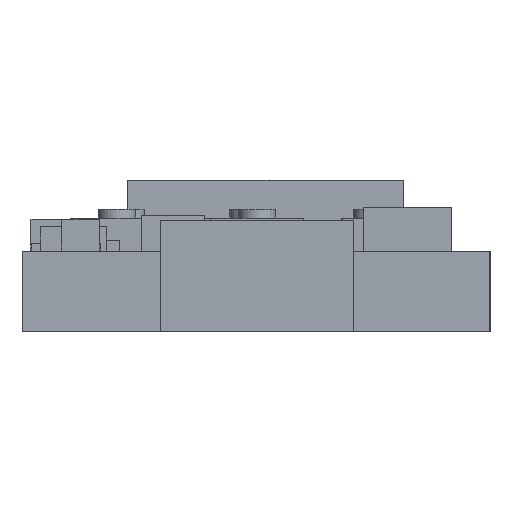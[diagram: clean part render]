
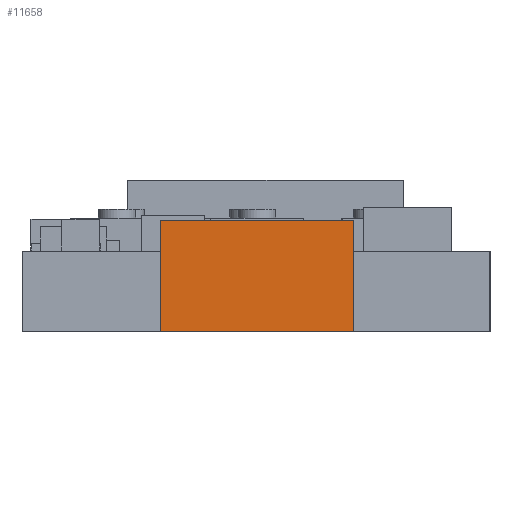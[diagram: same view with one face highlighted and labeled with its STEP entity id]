
A CAD part, left-side view. The second image highlights one B-rep face of the part: STEP entity #11658.
In plain terms, the highlighted planar face has unit normal (-1, 0, 0).
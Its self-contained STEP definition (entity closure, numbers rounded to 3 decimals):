
#100 = PLANE('',#101);
#101 = AXIS2_PLACEMENT_3D('',#102,#103,#104);
#102 = CARTESIAN_POINT('',(-0.114,-21.224,0.));
#103 = DIRECTION('',(0.,0.,1.));
#104 = DIRECTION('',(1.,0.,0.));
#125 = PLANE('',#126);
#126 = AXIS2_PLACEMENT_3D('',#127,#128,#129);
#127 = CARTESIAN_POINT('',(-11.509,-15.043,0.));
#128 = DIRECTION('',(0.,1.,0.));
#129 = DIRECTION('',(0.,0.,1.));
#368 = PLANE('',#369);
#369 = AXIS2_PLACEMENT_3D('',#370,#371,#372);
#370 = CARTESIAN_POINT('',(-11.509,-6.293,0.));
#371 = DIRECTION('',(0.,1.,0.));
#372 = DIRECTION('',(0.,0.,1.));
#4032 = VERTEX_POINT('',#4033);
#4033 = CARTESIAN_POINT('',(-11.509,-15.043,0.));
#4054 = EDGE_CURVE('',#4032,#4055,#4057,.T.);
#4055 = VERTEX_POINT('',#4056);
#4056 = CARTESIAN_POINT('',(-11.509,-15.043,
    5.051));
#4057 = SURFACE_CURVE('',#4058,(#4062,#4069),.PCURVE_S1.);
#4058 = LINE('',#4059,#4060);
#4059 = CARTESIAN_POINT('',(-11.509,-15.043,0.));
#4060 = VECTOR('',#4061,1.);
#4061 = DIRECTION('',(0.,0.,1.));
#4062 = PCURVE('',#125,#4063);
#4063 = DEFINITIONAL_REPRESENTATION('',(#4064),#4068);
#4064 = LINE('',#4065,#4066);
#4065 = CARTESIAN_POINT('',(0.,0.));
#4066 = VECTOR('',#4067,1.);
#4067 = DIRECTION('',(1.,0.));
#4068 = ( GEOMETRIC_REPRESENTATION_CONTEXT(2) 
PARAMETRIC_REPRESENTATION_CONTEXT() REPRESENTATION_CONTEXT('2D SPACE',''
  ) );
#4069 = PCURVE('',#4070,#4075);
#4070 = PLANE('',#4071);
#4071 = AXIS2_PLACEMENT_3D('',#4072,#4073,#4074);
#4072 = CARTESIAN_POINT('',(-11.509,-15.043,0.));
#4073 = DIRECTION('',(1.,0.,0.));
#4074 = DIRECTION('',(0.,0.,1.));
#4075 = DEFINITIONAL_REPRESENTATION('',(#4076),#4080);
#4076 = LINE('',#4077,#4078);
#4077 = CARTESIAN_POINT('',(0.,0.));
#4078 = VECTOR('',#4079,1.);
#4079 = DIRECTION('',(1.,0.));
#4080 = ( GEOMETRIC_REPRESENTATION_CONTEXT(2) 
PARAMETRIC_REPRESENTATION_CONTEXT() REPRESENTATION_CONTEXT('2D SPACE',''
  ) );
#4098 = PLANE('',#4099);
#4099 = AXIS2_PLACEMENT_3D('',#4100,#4101,#4102);
#4100 = CARTESIAN_POINT('',(-11.509,-15.043,
    5.051));
#4101 = DIRECTION('',(0.,0.,1.));
#4102 = DIRECTION('',(1.,0.,0.));
#4327 = VERTEX_POINT('',#4328);
#4328 = CARTESIAN_POINT('',(-11.509,-6.293,0.));
#4349 = EDGE_CURVE('',#4032,#4327,#4350,.T.);
#4350 = SURFACE_CURVE('',#4351,(#4355,#4362),.PCURVE_S1.);
#4351 = LINE('',#4352,#4353);
#4352 = CARTESIAN_POINT('',(-11.509,-15.043,0.));
#4353 = VECTOR('',#4354,1.);
#4354 = DIRECTION('',(0.,1.,0.));
#4355 = PCURVE('',#100,#4356);
#4356 = DEFINITIONAL_REPRESENTATION('',(#4357),#4361);
#4357 = LINE('',#4358,#4359);
#4358 = CARTESIAN_POINT('',(-11.394,6.181));
#4359 = VECTOR('',#4360,1.);
#4360 = DIRECTION('',(0.,1.));
#4361 = ( GEOMETRIC_REPRESENTATION_CONTEXT(2) 
PARAMETRIC_REPRESENTATION_CONTEXT() REPRESENTATION_CONTEXT('2D SPACE',''
  ) );
#4362 = PCURVE('',#4070,#4363);
#4363 = DEFINITIONAL_REPRESENTATION('',(#4364),#4368);
#4364 = LINE('',#4365,#4366);
#4365 = CARTESIAN_POINT('',(0.,0.));
#4366 = VECTOR('',#4367,1.);
#4367 = DIRECTION('',(0.,-1.));
#4368 = ( GEOMETRIC_REPRESENTATION_CONTEXT(2) 
PARAMETRIC_REPRESENTATION_CONTEXT() REPRESENTATION_CONTEXT('2D SPACE',''
  ) );
#4451 = EDGE_CURVE('',#4327,#4452,#4454,.T.);
#4452 = VERTEX_POINT('',#4453);
#4453 = CARTESIAN_POINT('',(-11.509,-6.293,
    5.051));
#4454 = SURFACE_CURVE('',#4455,(#4459,#4466),.PCURVE_S1.);
#4455 = LINE('',#4456,#4457);
#4456 = CARTESIAN_POINT('',(-11.509,-6.293,0.));
#4457 = VECTOR('',#4458,1.);
#4458 = DIRECTION('',(0.,0.,1.));
#4459 = PCURVE('',#368,#4460);
#4460 = DEFINITIONAL_REPRESENTATION('',(#4461),#4465);
#4461 = LINE('',#4462,#4463);
#4462 = CARTESIAN_POINT('',(0.,0.));
#4463 = VECTOR('',#4464,1.);
#4464 = DIRECTION('',(1.,0.));
#4465 = ( GEOMETRIC_REPRESENTATION_CONTEXT(2) 
PARAMETRIC_REPRESENTATION_CONTEXT() REPRESENTATION_CONTEXT('2D SPACE',''
  ) );
#4466 = PCURVE('',#4070,#4467);
#4467 = DEFINITIONAL_REPRESENTATION('',(#4468),#4472);
#4468 = LINE('',#4469,#4470);
#4469 = CARTESIAN_POINT('',(0.,-8.75));
#4470 = VECTOR('',#4471,1.);
#4471 = DIRECTION('',(1.,0.));
#4472 = ( GEOMETRIC_REPRESENTATION_CONTEXT(2) 
PARAMETRIC_REPRESENTATION_CONTEXT() REPRESENTATION_CONTEXT('2D SPACE',''
  ) );
#11635 = EDGE_CURVE('',#4055,#4452,#11636,.T.);
#11636 = SURFACE_CURVE('',#11637,(#11641,#11648),.PCURVE_S1.);
#11637 = LINE('',#11638,#11639);
#11638 = CARTESIAN_POINT('',(-11.509,-15.043,
    5.051));
#11639 = VECTOR('',#11640,1.);
#11640 = DIRECTION('',(0.,1.,0.));
#11641 = PCURVE('',#4098,#11642);
#11642 = DEFINITIONAL_REPRESENTATION('',(#11643),#11647);
#11643 = LINE('',#11644,#11645);
#11644 = CARTESIAN_POINT('',(0.,0.));
#11645 = VECTOR('',#11646,1.);
#11646 = DIRECTION('',(0.,1.));
#11647 = ( GEOMETRIC_REPRESENTATION_CONTEXT(2) 
PARAMETRIC_REPRESENTATION_CONTEXT() REPRESENTATION_CONTEXT('2D SPACE',''
  ) );
#11648 = PCURVE('',#4070,#11649);
#11649 = DEFINITIONAL_REPRESENTATION('',(#11650),#11654);
#11650 = LINE('',#11651,#11652);
#11651 = CARTESIAN_POINT('',(5.051,0.));
#11652 = VECTOR('',#11653,1.);
#11653 = DIRECTION('',(0.,-1.));
#11654 = ( GEOMETRIC_REPRESENTATION_CONTEXT(2) 
PARAMETRIC_REPRESENTATION_CONTEXT() REPRESENTATION_CONTEXT('2D SPACE',''
  ) );
#11658 = ADVANCED_FACE('',(#11659),#4070,.F.);
#11659 = FACE_BOUND('',#11660,.F.);
#11660 = EDGE_LOOP('',(#11661,#11662,#11663,#11664));
#11661 = ORIENTED_EDGE('',*,*,#4054,.F.);
#11662 = ORIENTED_EDGE('',*,*,#4349,.T.);
#11663 = ORIENTED_EDGE('',*,*,#4451,.T.);
#11664 = ORIENTED_EDGE('',*,*,#11635,.F.);
